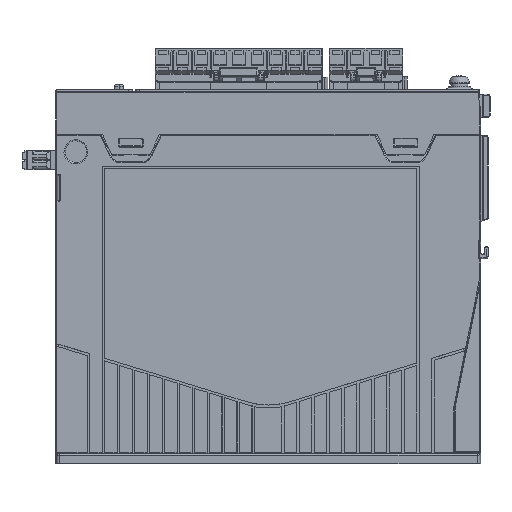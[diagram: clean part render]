
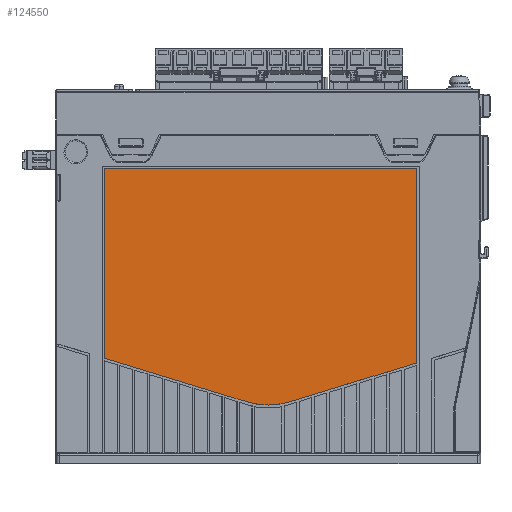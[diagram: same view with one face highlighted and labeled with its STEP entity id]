
A CAD part, left-side view. The second image highlights one B-rep face of the part: STEP entity #124550.
In plain terms, the highlighted planar face has unit normal (-1, 0, 0).
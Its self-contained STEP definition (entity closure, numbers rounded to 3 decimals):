
#32119=CARTESIAN_POINT('',(0.2,25.505,
-13.805));
#32121=DIRECTION('',(0.,1.,0.));
#32122=VECTOR('',#32121,124.99);
#32123=CARTESIAN_POINT('',(0.2,25.505,
-13.805));
#32124=LINE('',#32123,#32122);
#32129=DIRECTION('',(0.,0.,1.));
#32130=VECTOR('',#32129,77.533);
#32131=CARTESIAN_POINT('',(0.2,25.505,
-91.337));
#32132=LINE('',#32131,#32130);
#32156=DIRECTION('',(0.,0.,-1.));
#32157=VECTOR('',#32156,75.702);
#32158=CARTESIAN_POINT('',(0.2,150.495,
-13.805));
#32159=LINE('',#32158,#32157);
#32164=CARTESIAN_POINT('',(0.2,25.8,-91.338));
#32165=DIRECTION('',(1.,0.,0.));
#32166=DIRECTION('',(0.,-1.,0.005));
#32167=AXIS2_PLACEMENT_3D('',#32164,#32165,#32166);
#32169=DIRECTION('',(0.,0.956,-0.292));
#32170=VECTOR('',#32169,53.131);
#32171=CARTESIAN_POINT('',(0.2,25.714,
-91.62));
#32172=LINE('',#32171,#32170);
#32173=CARTESIAN_POINT('',(0.2,85.001,
-79.428));
#32174=DIRECTION('',(1.,0.,0.));
#32175=DIRECTION('',(0.,-0.292,-0.956));
#32176=AXIS2_PLACEMENT_3D('',#32173,#32174,#32175);
#32178=DIRECTION('',(0.,0.956,0.292));
#32179=VECTOR('',#32178,59.404);
#32180=CARTESIAN_POINT('',(0.2,93.477,
-107.156));
#32181=LINE('',#32180,#32179);
#32182=CARTESIAN_POINT('',(0.2,150.2,-89.508));
#32183=DIRECTION('',(1.,0.,0.));
#32184=DIRECTION('',(0.,0.292,-0.956));
#32185=AXIS2_PLACEMENT_3D('',#32182,#32183,#32184);
#54717=VERTEX_POINT('',#32119);
#54718=CARTESIAN_POINT('',(0.2,150.495,
-13.805));
#54719=VERTEX_POINT('',#54718);
#54720=CARTESIAN_POINT('',(0.2,25.505,
-91.337));
#54721=VERTEX_POINT('',#54720);
#54722=CARTESIAN_POINT('',(0.2,25.714,
-91.62));
#54723=VERTEX_POINT('',#54722);
#54724=CARTESIAN_POINT('',(0.2,76.523,
-107.156));
#54725=VERTEX_POINT('',#54724);
#54726=CARTESIAN_POINT('',(0.2,93.477,
-107.156));
#54727=VERTEX_POINT('',#54726);
#54728=CARTESIAN_POINT('',(0.2,150.286,
-89.79));
#54729=VERTEX_POINT('',#54728);
#54730=CARTESIAN_POINT('',(0.2,150.495,
-89.507));
#54731=VERTEX_POINT('',#54730);
#124535=CARTESIAN_POINT('',(0.2,0.,-127.5));
#124536=DIRECTION('',(-1.,0.,0.));
#124537=DIRECTION('',(0.,0.,1.));
#124538=AXIS2_PLACEMENT_3D('',#124535,#124536,#124537);
#124539=PLANE('',#124538);
#124540=ORIENTED_EDGE('',*,*,#124418,.T.);
#124541=ORIENTED_EDGE('',*,*,#124439,.T.);
#124542=ORIENTED_EDGE('',*,*,#124460,.T.);
#124543=ORIENTED_EDGE('',*,*,#124481,.T.);
#124544=ORIENTED_EDGE('',*,*,#124502,.T.);
#124545=ORIENTED_EDGE('',*,*,#124522,.F.);
#124546=ORIENTED_EDGE('',*,*,#124375,.F.);
#124547=ORIENTED_EDGE('',*,*,#124397,.F.);
#124548=EDGE_LOOP('',(#124540,#124541,#124542,#124543,#124544,#124545,#124546,
#124547));
#124549=FACE_OUTER_BOUND('',#124548,.F.);
#32168=CIRCLE('',#32167,0.295);
#32177=CIRCLE('',#32176,28.995);
#32186=CIRCLE('',#32185,0.295);
#124375=EDGE_CURVE('',#54717,#54719,#32124,.T.);
#124397=EDGE_CURVE('',#54721,#54717,#32132,.T.);
#124418=EDGE_CURVE('',#54721,#54723,#32168,.T.);
#124439=EDGE_CURVE('',#54723,#54725,#32172,.T.);
#124460=EDGE_CURVE('',#54725,#54727,#32177,.T.);
#124481=EDGE_CURVE('',#54727,#54729,#32181,.T.);
#124502=EDGE_CURVE('',#54729,#54731,#32186,.T.);
#124522=EDGE_CURVE('',#54719,#54731,#32159,.T.);
#124550=ADVANCED_FACE('',(#124549),#124539,.T.);
